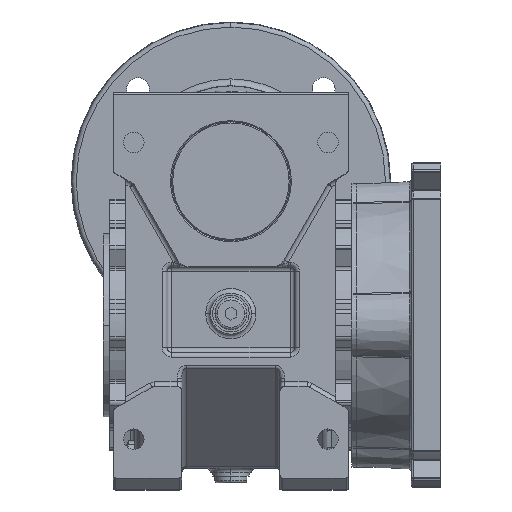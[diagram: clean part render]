
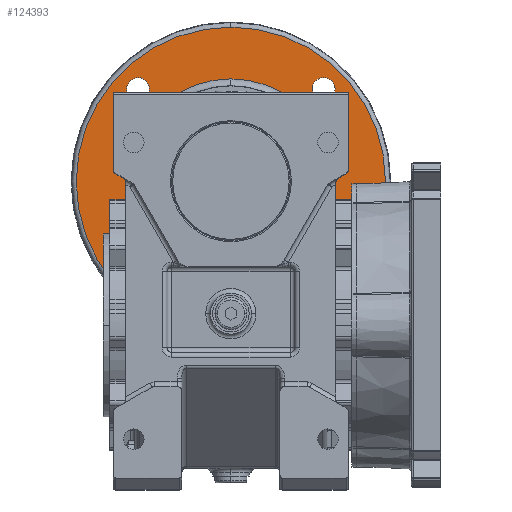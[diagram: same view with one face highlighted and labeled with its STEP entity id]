
A CAD part, top view. The second image highlights one B-rep face of the part: STEP entity #124393.
In plain terms, the highlighted planar face has unit normal (0, 0, 1).
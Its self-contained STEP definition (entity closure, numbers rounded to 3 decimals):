
#117786 = DIRECTION ( 'NONE',  ( 1., 0., 0. ) ) ;
#117787 = DIRECTION ( 'NONE',  ( 0., 0., -1. ) ) ;
#117788 = CARTESIAN_POINT ( 'NONE',  ( -40.659, -40.659, 10. ) ) ;
#117789 = AXIS2_PLACEMENT_3D ( 'NONE', #117788, #117787, #117786 ) ;
#117790 = CIRCLE ( 'NONE', #117789, 5. ) ;
#117833 = DIRECTION ( 'NONE',  ( 1., 0., 0. ) ) ;
#117834 = DIRECTION ( 'NONE',  ( 0., 0., -1. ) ) ;
#117835 = CARTESIAN_POINT ( 'NONE',  ( 40.659, -40.659, 10. ) ) ;
#117836 = AXIS2_PLACEMENT_3D ( 'NONE', #117835, #117834, #117833 ) ;
#117837 = CIRCLE ( 'NONE', #117836, 5. ) ;
#117891 = CARTESIAN_POINT ( 'NONE',  ( 35.659, -40.659, 10. ) ) ;
#117892 = CARTESIAN_POINT ( 'NONE',  ( 45.659, -40.659, 10. ) ) ;
#117924 = CARTESIAN_POINT ( 'NONE',  ( 35.659, 40.659, 10. ) ) ;
#117925 = CARTESIAN_POINT ( 'NONE',  ( 45.659, 40.659, 10. ) ) ;
#117930 = CARTESIAN_POINT ( 'NONE',  ( -35.659, -40.659, 10. ) ) ;
#117938 = CARTESIAN_POINT ( 'NONE',  ( -45.659, 40.659, 10. ) ) ;
#117939 = CARTESIAN_POINT ( 'NONE',  ( -35.659, 40.659, 10. ) ) ;
#117940 = DIRECTION ( 'NONE',  ( 1., 0., 0. ) ) ;
#117941 = DIRECTION ( 'NONE',  ( 0., 0., -1. ) ) ;
#117942 = AXIS2_PLACEMENT_3D ( 'NONE', #117949, #117941, #117940 ) ;
#117944 = CIRCLE ( 'NONE', #117942, 5. ) ;
#117949 = CARTESIAN_POINT ( 'NONE',  ( -40.659, 40.659, 10. ) ) ;
#117993 = CARTESIAN_POINT ( 'NONE',  ( -45.659, -40.659, 10. ) ) ;
#118044 = DIRECTION ( 'NONE',  ( 1., 0., 0. ) ) ;
#118045 = DIRECTION ( 'NONE',  ( 0., 0., -1. ) ) ;
#118046 = AXIS2_PLACEMENT_3D ( 'NONE', #118051, #118045, #118044 ) ;
#118047 = CIRCLE ( 'NONE', #118046, 5. ) ;
#118051 = CARTESIAN_POINT ( 'NONE',  ( 40.659, 40.659, 10. ) ) ;
#123286 = EDGE_CURVE ( 'NONE', #123393, #123394, #117790, .T. ) ;
#123334 = EDGE_CURVE ( 'NONE', #123336, #123338, #117837, .T. ) ;
#123336 = VERTEX_POINT ( 'NONE', #117892 ) ;
#123338 = VERTEX_POINT ( 'NONE', #117891 ) ;
#123354 = VERTEX_POINT ( 'NONE', #117925 ) ;
#123355 = VERTEX_POINT ( 'NONE', #117924 ) ;
#123384 = EDGE_CURVE ( 'NONE', #123386, #123387, #117944, .T. ) ;
#123386 = VERTEX_POINT ( 'NONE', #117939 ) ;
#123387 = VERTEX_POINT ( 'NONE', #117938 ) ;
#123393 = VERTEX_POINT ( 'NONE', #117930 ) ;
#123394 = VERTEX_POINT ( 'NONE', #117993 ) ;
#123434 = EDGE_CURVE ( 'NONE', #123354, #123355, #118047, .T. ) ;
#124084 = VERTEX_POINT ( 'NONE', #172631 ) ;
#124108 = EDGE_CURVE ( 'NONE', #124084, #124111, #178003, .T. ) ;
#124111 = VERTEX_POINT ( 'NONE', #178039 ) ;
#124133 = EDGE_CURVE ( 'NONE', #124134, #124160, #178976, .T. ) ;
#124134 = VERTEX_POINT ( 'NONE', #178971 ) ;
#124160 = VERTEX_POINT ( 'NONE', #179051 ) ;
#124393 = ADVANCED_FACE ( 'NONE', ( #199693, #199691, #199689, #199688, #199686, #199684 ), #199682, .T. ) ;
#124394 = EDGE_LOOP ( 'NONE', ( #124396, #124401 ) ) ;
#124396 = ORIENTED_EDGE ( 'NONE', *, *, #124398, .T. ) ;
#124398 = EDGE_CURVE ( 'NONE', #123394, #123393, #199814, .T. ) ;
#124401 = ORIENTED_EDGE ( 'NONE', *, *, #123286, .T. ) ;
#124402 = EDGE_LOOP ( 'NONE', ( #124405, #124446 ) ) ;
#124405 = ORIENTED_EDGE ( 'NONE', *, *, #124406, .T. ) ;
#124406 = EDGE_CURVE ( 'NONE', #123338, #123336, #199782, .T. ) ;
#124433 = ORIENTED_EDGE ( 'NONE', *, *, #124108, .T. ) ;
#124434 = EDGE_LOOP ( 'NONE', ( #124435, #124436 ) ) ;
#124435 = ORIENTED_EDGE ( 'NONE', *, *, #124133, .F. ) ;
#124436 = ORIENTED_EDGE ( 'NONE', *, *, #124463, .F. ) ;
#124446 = ORIENTED_EDGE ( 'NONE', *, *, #123334, .T. ) ;
#124447 = EDGE_LOOP ( 'NONE', ( #124448, #124450 ) ) ;
#124448 = ORIENTED_EDGE ( 'NONE', *, *, #124449, .T. ) ;
#124449 = EDGE_CURVE ( 'NONE', #123387, #123386, #202235, .T. ) ;
#124450 = ORIENTED_EDGE ( 'NONE', *, *, #123384, .T. ) ;
#124451 = EDGE_LOOP ( 'NONE', ( #124452, #124454 ) ) ;
#124452 = ORIENTED_EDGE ( 'NONE', *, *, #124453, .T. ) ;
#124453 = EDGE_CURVE ( 'NONE', #123355, #123354, #202225, .T. ) ;
#124454 = ORIENTED_EDGE ( 'NONE', *, *, #123434, .T. ) ;
#124455 = EDGE_LOOP ( 'NONE', ( #124456, #124433 ) ) ;
#124456 = ORIENTED_EDGE ( 'NONE', *, *, #124457, .T. ) ;
#124457 = EDGE_CURVE ( 'NONE', #124111, #124084, #202362, .T. ) ;
#124463 = EDGE_CURVE ( 'NONE', #124160, #124134, #202346, .T. ) ;
#172631 = CARTESIAN_POINT ( 'NONE',  ( 45.072, 0., 10. ) ) ;
#177999 = DIRECTION ( 'NONE',  ( -1., 0., 0. ) ) ;
#178000 = DIRECTION ( 'NONE',  ( 0., 0., -1. ) ) ;
#178001 = CARTESIAN_POINT ( 'NONE',  ( 0., 0., 10. ) ) ;
#178002 = AXIS2_PLACEMENT_3D ( 'NONE', #178001, #178000, #177999 ) ;
#178003 = CIRCLE ( 'NONE', #178002, 45.072 ) ;
#178039 = CARTESIAN_POINT ( 'NONE',  ( -45.072, 0., 10. ) ) ;
#178971 = CARTESIAN_POINT ( 'NONE',  ( -67.719, 0., 10. ) ) ;
#178972 = DIRECTION ( 'NONE',  ( -1., 0., 0. ) ) ;
#178973 = DIRECTION ( 'NONE',  ( 0., 0., -1. ) ) ;
#178974 = CARTESIAN_POINT ( 'NONE',  ( 0., 0., 10. ) ) ;
#178975 = AXIS2_PLACEMENT_3D ( 'NONE', #178974, #178973, #178972 ) ;
#178976 = CIRCLE ( 'NONE', #178975, 67.719 ) ;
#179051 = CARTESIAN_POINT ( 'NONE',  ( 67.719, 0., 10. ) ) ;
#199672 = DIRECTION ( 'NONE',  ( 1., 0., 0. ) ) ;
#199674 = DIRECTION ( 'NONE',  ( 0., 0., 1. ) ) ;
#199676 = CARTESIAN_POINT ( 'NONE',  ( 0., 67.719, 10. ) ) ;
#199678 = AXIS2_PLACEMENT_3D ( 'NONE', #199676, #199674, #199672 ) ;
#199682 = PLANE ( 'NONE',  #199678 ) ;
#199684 = FACE_OUTER_BOUND ( 'NONE', #124434, .T. ) ;
#199686 = FACE_BOUND ( 'NONE', #124455, .T. ) ;
#199688 = FACE_BOUND ( 'NONE', #124451, .T. ) ;
#199689 = FACE_BOUND ( 'NONE', #124447, .T. ) ;
#199691 = FACE_BOUND ( 'NONE', #124402, .T. ) ;
#199693 = FACE_BOUND ( 'NONE', #124394, .T. ) ;
#199775 = DIRECTION ( 'NONE',  ( 1., 0., 0. ) ) ;
#199777 = DIRECTION ( 'NONE',  ( 0., 0., -1. ) ) ;
#199778 = CARTESIAN_POINT ( 'NONE',  ( 40.659, -40.659, 10. ) ) ;
#199780 = AXIS2_PLACEMENT_3D ( 'NONE', #199778, #199777, #199775 ) ;
#199782 = CIRCLE ( 'NONE', #199780, 5. ) ;
#199808 = DIRECTION ( 'NONE',  ( 1., 0., 0. ) ) ;
#199810 = DIRECTION ( 'NONE',  ( 0., 0., -1. ) ) ;
#199811 = CARTESIAN_POINT ( 'NONE',  ( -40.659, -40.659, 10. ) ) ;
#199812 = AXIS2_PLACEMENT_3D ( 'NONE', #199811, #199810, #199808 ) ;
#199814 = CIRCLE ( 'NONE', #199812, 5. ) ;
#202225 = CIRCLE ( 'NONE', #202371, 5. ) ;
#202231 = DIRECTION ( 'NONE',  ( 1., 0., 0. ) ) ;
#202232 = DIRECTION ( 'NONE',  ( 0., 0., -1. ) ) ;
#202234 = AXIS2_PLACEMENT_3D ( 'NONE', #202245, #202232, #202231 ) ;
#202235 = CIRCLE ( 'NONE', #202234, 5. ) ;
#202245 = CARTESIAN_POINT ( 'NONE',  ( -40.659, 40.659, 10. ) ) ;
#202329 = DIRECTION ( 'NONE',  ( -1., 0., 0. ) ) ;
#202331 = DIRECTION ( 'NONE',  ( 0., 0., -1. ) ) ;
#202332 = CARTESIAN_POINT ( 'NONE',  ( 0., 0., 10. ) ) ;
#202334 = AXIS2_PLACEMENT_3D ( 'NONE', #202332, #202331, #202329 ) ;
#202346 = CIRCLE ( 'NONE', #202334, 67.719 ) ;
#202356 = DIRECTION ( 'NONE',  ( -1., 0., 0. ) ) ;
#202358 = DIRECTION ( 'NONE',  ( 0., 0., -1. ) ) ;
#202359 = CARTESIAN_POINT ( 'NONE',  ( 0., 0., 10. ) ) ;
#202360 = AXIS2_PLACEMENT_3D ( 'NONE', #202359, #202358, #202356 ) ;
#202362 = CIRCLE ( 'NONE', #202360, 45.072 ) ;
#202366 = DIRECTION ( 'NONE',  ( 1., 0., 0. ) ) ;
#202368 = DIRECTION ( 'NONE',  ( 0., 0., -1. ) ) ;
#202370 = CARTESIAN_POINT ( 'NONE',  ( 40.659, 40.659, 10. ) ) ;
#202371 = AXIS2_PLACEMENT_3D ( 'NONE', #202370, #202368, #202366 ) ;
